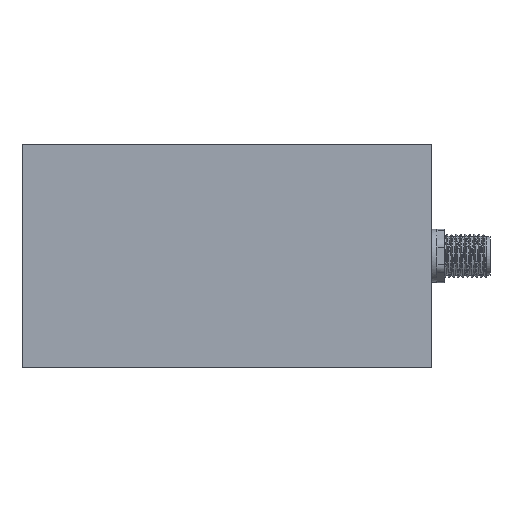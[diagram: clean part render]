
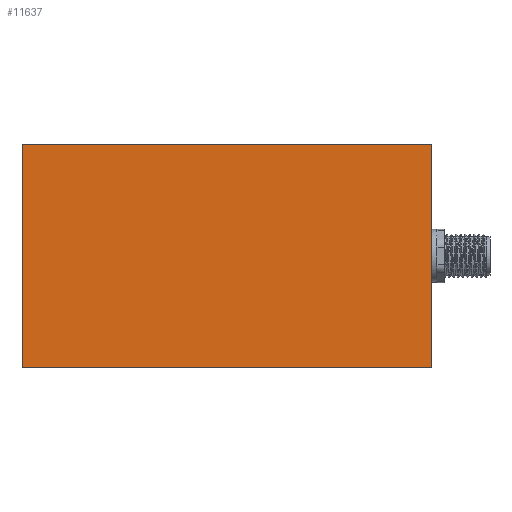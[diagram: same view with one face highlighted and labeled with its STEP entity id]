
A CAD part, top view. The second image highlights one B-rep face of the part: STEP entity #11637.
In plain terms, the highlighted planar face has unit normal (0, 0, 1).
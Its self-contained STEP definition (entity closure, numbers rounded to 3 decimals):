
#83 = DIRECTION ( 'NONE',  ( 0., 0., -1. ) ) ;
#163 = DIRECTION ( 'NONE',  ( -1., 0., 0. ) ) ;
#927 = CARTESIAN_POINT ( 'NONE',  ( -5., -5., 21.06 ) ) ;
#938 = ORIENTED_EDGE ( 'NONE', *, *, #11644, .T. ) ;
#1992 = AXIS2_PLACEMENT_3D ( 'NONE', #11511, #83, #163 ) ;
#2297 = EDGE_CURVE ( 'NONE', #4053, #8969, #5178, .T. ) ;
#2342 = LINE ( 'NONE', #9420, #8481 ) ;
#2412 = FACE_OUTER_BOUND ( 'NONE', #7814, .T. ) ;
#3180 = EDGE_CURVE ( 'NONE', #8969, #7844, #9629, .T. ) ;
#3501 = CARTESIAN_POINT ( 'NONE',  ( 107., 56., 21.06 ) ) ;
#4053 = VERTEX_POINT ( 'NONE', #14694 ) ;
#5178 = LINE ( 'NONE', #8576, #10595 ) ;
#5853 = EDGE_CURVE ( 'NONE', #11265, #4053, #10806, .T. ) ;
#6023 = PLANE ( 'NONE',  #1992 ) ;
#6922 = DIRECTION ( 'NONE',  ( 1., 0., 0. ) ) ;
#7282 = CARTESIAN_POINT ( 'NONE',  ( 107., -5., 21.06 ) ) ;
#7477 = ORIENTED_EDGE ( 'NONE', *, *, #5853, .T. ) ;
#7814 = EDGE_LOOP ( 'NONE', ( #7477, #14322, #13636, #938 ) ) ;
#7844 = VERTEX_POINT ( 'NONE', #10246 ) ;
#8481 = VECTOR ( 'NONE', #13921, 1000. ) ;
#8576 = CARTESIAN_POINT ( 'NONE',  ( 107., 56., 21.06 ) ) ;
#8969 = VERTEX_POINT ( 'NONE', #3501 ) ;
#9159 = VECTOR ( 'NONE', #10747, 1000. ) ;
#9420 = CARTESIAN_POINT ( 'NONE',  ( -5., -5., 21.06 ) ) ;
#9629 = LINE ( 'NONE', #11720, #9159 ) ;
#10246 = CARTESIAN_POINT ( 'NONE',  ( -5., 56., 21.06 ) ) ;
#10263 = VECTOR ( 'NONE', #6922, 1000. ) ;
#10595 = VECTOR ( 'NONE', #12933, 1000. ) ;
#10747 = DIRECTION ( 'NONE',  ( -1., 0., 0. ) ) ;
#10806 = LINE ( 'NONE', #7282, #10263 ) ;
#11265 = VERTEX_POINT ( 'NONE', #927 ) ;
#11511 = CARTESIAN_POINT ( 'NONE',  ( 0., 0., 21.06 ) ) ;
#11637 = ADVANCED_FACE ( 'NONE', ( #2412 ), #6023, .F. ) ;
#11644 = EDGE_CURVE ( 'NONE', #7844, #11265, #2342, .T. ) ;
#11720 = CARTESIAN_POINT ( 'NONE',  ( -5., 56., 21.06 ) ) ;
#12933 = DIRECTION ( 'NONE',  ( 0., 1., 0. ) ) ;
#13636 = ORIENTED_EDGE ( 'NONE', *, *, #3180, .T. ) ;
#13921 = DIRECTION ( 'NONE',  ( 0., -1., 0. ) ) ;
#14322 = ORIENTED_EDGE ( 'NONE', *, *, #2297, .T. ) ;
#14694 = CARTESIAN_POINT ( 'NONE',  ( 107., -5., 21.06 ) ) ;
